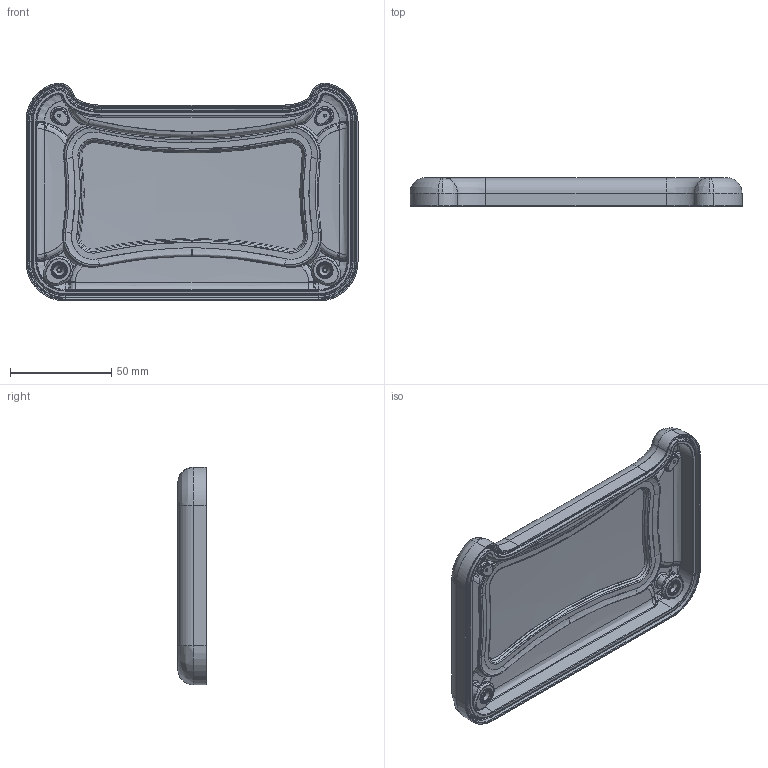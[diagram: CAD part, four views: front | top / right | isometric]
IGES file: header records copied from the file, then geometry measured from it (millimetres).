
Start section: SolidWorks IGES file using analytic representation for surfaces
Global section: file name: \\SBS\Data\NANUK\NANUK Marketing\NANUK Technical Drawings\3D Files\IGES\320\nano_320_top_INNER_SURFACES_assembly.IGS; native system: SolidWorks 2014; preprocessor: SolidWorks 2014; author: dposada; date: 150130.124736; units: millimetre
Bounding box: 164.2 x 13.97 x 107.74 mm (x, y, z)
Surface area: 55155.6 mm2 (no closed solid volume)
Topology: 0 solids, 0 shells, 1359 faces, 10991 edges, 10977 vertices
Faces by surface type: bspline 1006, revolution 353
